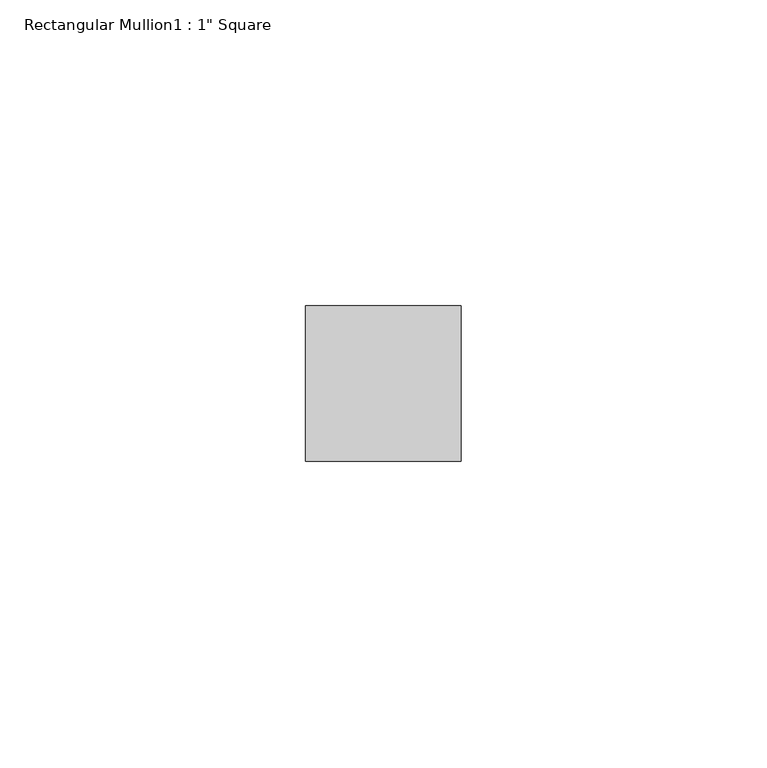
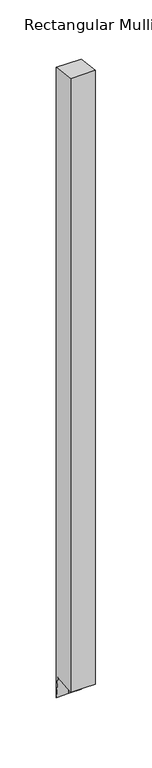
"""IFC4 building model written with IfcOpenShell, lengths in millimetres: member geometry."""

from ifc_helpers import new_model, si_unit, origin, place, context, project, spatial, faceted_brep, source, transform, mapped, element, save


def member_fc86b25a(model_context):
    return source(origin(), model_context, "Body", "Brep", [
        faceted_brep([(-12.7, -19.05, 2.4252203), (12.7, -19.05, 2.4252203), (12.7, -19.05, -681.2480018), (0.0, -19.05, -681.2480018), (-12.7, -19.05, -681.2480018), (-12.7, -44.45, 5.6588474), (-12.7, -22.1052135, -657.2494332), (-12.7, -44.45, -660.0941067), (12.7, -44.45, 5.6588474), (0.0, -44.45, -660.0941067), (12.7, -44.45, -660.0941067), (12.7, -22.1052135, -657.2494332), (0.0, -22.1052135, -657.2494332)], [[[0, 1, 2, 3, 4]], [[5, 0, 4, 6, 7]], [[8, 5, 7, 9, 10]], [[1, 8, 10, 11, 2]], [[1, 0, 5, 8]], [[2, 11, 12, 3]], [[11, 10, 9, 12]], [[9, 7, 6, 12]], [[6, 4, 3, 12]]]),
    ])


if __name__ == "__main__":
    model = new_model("IFC4")
    model_context = context("Model", 3, world=origin())
    ifc_project = project(units=[si_unit("LENGTHUNIT", "METRE", prefix="MILLI")], contexts=[model_context])
    site = spatial("IfcSite", under=ifc_project)
    building = spatial("IfcBuilding", under=site)
    placement = place(None, origin())
    member_shape = member_fc86b25a(model_context)
    element("IfcMember", 1, ObjectType="Rectangular Mullion1 : 1\" Square", at=placement, inside=building, context=model_context, shape_type="MappedRepresentation", body=[
        mapped(member_shape, transform((0.0, 0.0, 0.0), x_axis=(1.0, 0.0, 0.0), y_axis=(0.0, 1.0, 0.0), z_axis=(0.0, 0.0, 1.0))),
    ])
    save(model, "model.ifc")
